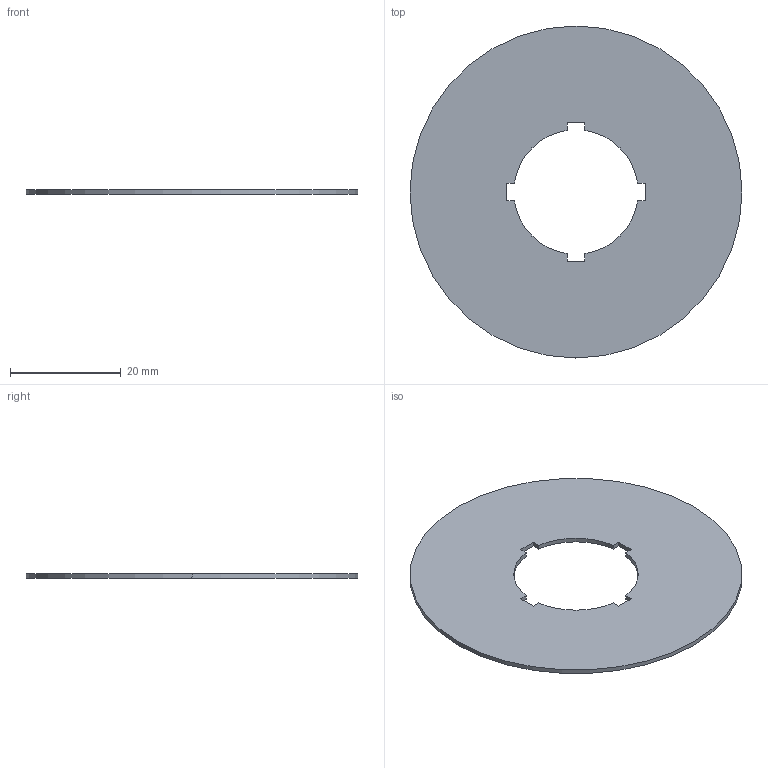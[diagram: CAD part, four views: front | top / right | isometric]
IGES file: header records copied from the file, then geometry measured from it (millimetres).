
Start section: Data from XPlus IGES,  Spatial Corp. Copyright (c) 1999-2004
Global section: file name: 216483.igs; native system:  By Spatial Corp.; preprocessor: XPlus ACIS/IGES 3.0; author: Noname; organization: Noname; date: 20120614.151920; units: millimetre
Bounding box: 60 x 60 x 0.8 mm (x, y, z)
Surface area: 5042.7 mm2 (no closed solid volume)
Topology: 0 solids, 0 shells, 20 faces, 108 edges, 108 vertices
Faces by surface type: extrusion 14, revolution 6
